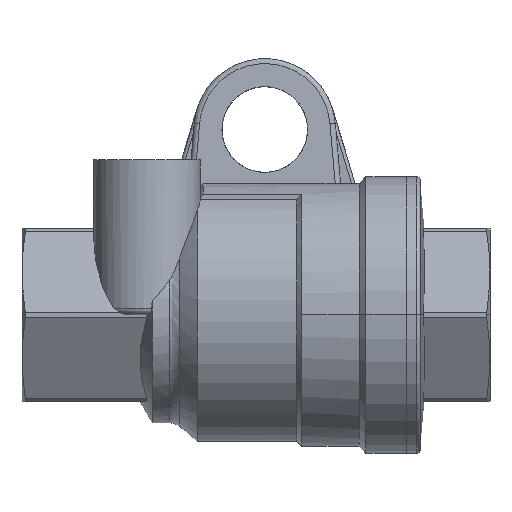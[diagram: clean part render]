
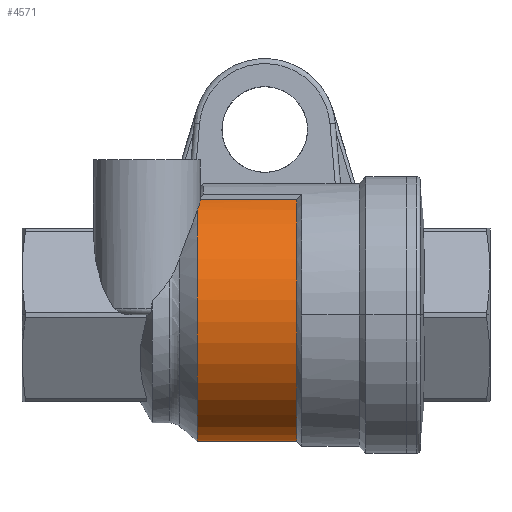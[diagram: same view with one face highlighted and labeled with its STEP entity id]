
A CAD part, front view. The second image highlights one B-rep face of the part: STEP entity #4571.
In plain terms, the highlighted cylindrical face has radius 18.75 mm (diameter 37.5 mm), a partial arc.
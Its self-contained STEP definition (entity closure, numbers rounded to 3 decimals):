
#533=CARTESIAN_POINT('',(4.,0.,0.));
#534=DIRECTION('',(-1.,0.,0.));
#535=DIRECTION('',(0.,0.864,-0.504));
#536=AXIS2_PLACEMENT_3D('',#533,#534,#535);
#586=CARTESIAN_POINT('',(-10.,18.489,-3.118));
#587=CARTESIAN_POINT('',(-9.83,18.401,-3.637));
#588=CARTESIAN_POINT('',(-9.405,18.186,-4.65));
#589=CARTESIAN_POINT('',(-8.478,17.745,-6.117));
#590=CARTESIAN_POINT('',(-7.295,17.234,-7.424));
#591=CARTESIAN_POINT('',(-5.921,16.723,-8.501));
#592=CARTESIAN_POINT('',(-4.492,16.295,-9.285));
#593=CARTESIAN_POINT('',(-3.147,15.996,-9.786));
#594=CARTESIAN_POINT('',(-1.915,15.812,-10.078));
#595=CARTESIAN_POINT('',(-0.764,15.72,
-10.22));
#596=CARTESIAN_POINT('',(0.349,15.706,-10.241));
#597=CARTESIAN_POINT('',(1.481,15.768,-10.146));
#598=CARTESIAN_POINT('',(2.678,15.915,-9.916));
#599=CARTESIAN_POINT('',(3.552,16.086,-9.636));
#600=CARTESIAN_POINT('',(4.,16.191,-9.456));
#644=CARTESIAN_POINT('',(-10.,-10.482,15.546));
#1238=CARTESIAN_POINT('',(4.75,-7.75,17.073));
#1245=DIRECTION('',(-1.,0.,0.));
#1246=VECTOR('',#1245,14.354);
#1247=CARTESIAN_POINT('',(4.75,-7.75,17.073));
#1248=LINE('',#1247,#1246);
#1378=CARTESIAN_POINT('',(-10.,0.,0.));
#1379=DIRECTION('',(-1.,0.,0.));
#1380=DIRECTION('',(0.,0.986,-0.166));
#1381=AXIS2_PLACEMENT_3D('',#1378,#1379,#1380);
#1383=CARTESIAN_POINT('',(-10.,-10.482,15.546));
#1384=CARTESIAN_POINT('',(-9.909,-10.206,
15.733));
#1385=CARTESIAN_POINT('',(-9.759,-9.652,
16.085));
#1386=CARTESIAN_POINT('',(-9.628,-8.817,
16.557));
#1387=CARTESIAN_POINT('',(-9.6,-8.271,16.83));
#1388=CARTESIAN_POINT('',(-9.6,-8.,16.958));
#1390=CARTESIAN_POINT('',(-9.6,-8.,16.958));
#1391=CARTESIAN_POINT('',(-9.6,-7.958,16.977));
#1392=CARTESIAN_POINT('',(-9.601,-7.875,
17.016));
#1393=CARTESIAN_POINT('',(-9.603,-7.792,
17.054));
#1394=CARTESIAN_POINT('',(-9.604,-7.75,17.073));
#1396=CARTESIAN_POINT('',(4.75,12.212,-14.228));
#1397=CARTESIAN_POINT('',(4.666,12.179,-14.256));
#1398=CARTESIAN_POINT('',(4.498,12.115,-14.311));
#1399=CARTESIAN_POINT('',(4.248,12.024,-14.387));
#1400=CARTESIAN_POINT('',(4.082,11.968,-14.434));
#1401=CARTESIAN_POINT('',(4.,11.94,-14.457));
#1469=CARTESIAN_POINT('',(4.75,0.,0.));
#1470=DIRECTION('',(-1.,0.,0.));
#1471=DIRECTION('',(0.,0.651,-0.759));
#1472=AXIS2_PLACEMENT_3D('',#1469,#1470,#1471);
#2227=VERTEX_POINT('',#1238);
#2269=VERTEX_POINT('',#644);
#2270=VERTEX_POINT('',#1390);
#2271=VERTEX_POINT('',#1394);
#2314=CARTESIAN_POINT('',(4.,11.94,-14.457));
#2315=VERTEX_POINT('',#2314);
#2552=VERTEX_POINT('',#1396);
#2583=VERTEX_POINT('',#586);
#2584=VERTEX_POINT('',#600);
#4554=CARTESIAN_POINT('',(24.725,0.,0.));
#4555=DIRECTION('',(-1.,0.,0.));
#4556=DIRECTION('',(0.,1.,0.));
#4557=AXIS2_PLACEMENT_3D('',#4554,#4555,#4556);
#4558=CYLINDRICAL_SURFACE('',#4557,18.75);
#4559=ORIENTED_EDGE('',*,*,#3541,.F.);
#4560=ORIENTED_EDGE('',*,*,#3579,.T.);
#4562=ORIENTED_EDGE('',*,*,#4561,.T.);
#4563=ORIENTED_EDGE('',*,*,#4344,.T.);
#4564=ORIENTED_EDGE('',*,*,#4368,.F.);
#4566=ORIENTED_EDGE('',*,*,#4565,.F.);
#4567=ORIENTED_EDGE('',*,*,#4518,.T.);
#4568=ORIENTED_EDGE('',*,*,#3468,.F.);
#4569=EDGE_LOOP('',(#4559,#4560,#4562,#4563,#4564,#4566,#4567,#4568));
#4570=FACE_OUTER_BOUND('',#4569,.F.);
#4571=ADVANCED_FACE('',(#4570),#4558,.T.);
#537=CIRCLE('',#536,18.75);
#601=B_SPLINE_CURVE_WITH_KNOTS('',3,(#586,#587,#588,#589,#590,#591,#592,#593,
#594,#595,#596,#597,#598,#599,#600),.UNSPECIFIED.,.F.,.F.,(4,1,1,1,1,1,1,1,1,1,
1,1,4),(0.,0.083,0.167,0.25,0.333,
0.417,0.5,0.583,0.667,0.75,
0.833,0.917,1.),.UNSPECIFIED.);
#1382=CIRCLE('',#1381,18.75);
#1389=B_SPLINE_CURVE_WITH_KNOTS('',3,(#1383,#1384,#1385,#1386,#1387,#1388),
.UNSPECIFIED.,.F.,.F.,(4,1,1,4),(0.,0.333,0.667,1.),
.UNSPECIFIED.);
#1395=B_SPLINE_CURVE_WITH_KNOTS('',3,(#1390,#1391,#1392,#1393,#1394),
.UNSPECIFIED.,.F.,.F.,(4,1,4),(0.,0.5,1.),.UNSPECIFIED.);
#1402=B_SPLINE_CURVE_WITH_KNOTS('',3,(#1396,#1397,#1398,#1399,#1400,#1401),
.UNSPECIFIED.,.F.,.F.,(4,1,1,4),(0.,0.333,0.667,1.),
.UNSPECIFIED.);
#1473=CIRCLE('',#1472,18.75);
#3468=EDGE_CURVE('',#2584,#2315,#537,.T.);
#3541=EDGE_CURVE('',#2583,#2584,#601,.T.);
#3579=EDGE_CURVE('',#2583,#2269,#1382,.T.);
#4344=EDGE_CURVE('',#2270,#2271,#1395,.T.);
#4368=EDGE_CURVE('',#2227,#2271,#1248,.T.);
#4518=EDGE_CURVE('',#2552,#2315,#1402,.T.);
#4561=EDGE_CURVE('',#2269,#2270,#1389,.T.);
#4565=EDGE_CURVE('',#2552,#2227,#1473,.T.);
